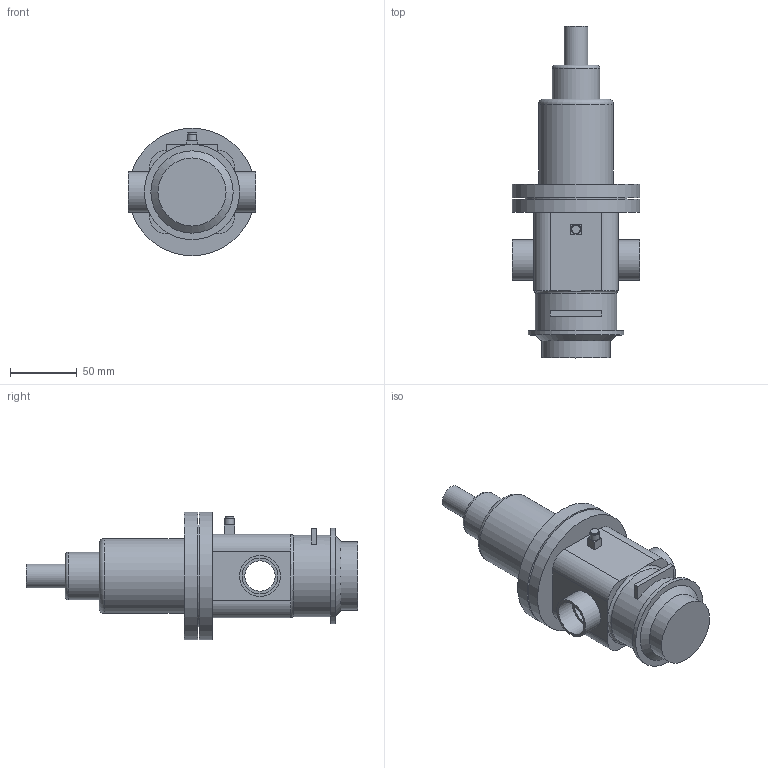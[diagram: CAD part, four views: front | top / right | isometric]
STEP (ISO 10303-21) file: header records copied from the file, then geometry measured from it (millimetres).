
FILE_DESCRIPTION(/* description */ (''),/* implementation_level */ '2;1');
FILE_NAME(/* name */ 'C:\Users\Vjadhav\Desktop\CAD for Inventor\Test for STEP\Autodesk_Inventor_FP_iParts\STEP\Victaulic_FP_Valve Pressure Relife_Series 867-3HC\Victaulic_FP_Valve Pressure Relife_Series 867-3HC_0.75 (20)_16.stp',/* time_stamp */ '2020-07-17T17:55:00+05:00',/* author */ ('VJadhav'),/* organization */ (''),/* preprocessor_version */ 'ST-DEVELOPER v17.2',/* originating_system */ 'Autodesk Inventor 2019',/* authorisation */ '');
FILE_SCHEMA (('AUTOMOTIVE_DESIGN { 1 0 10303 214 3 1 1 }'));
Length unit declared in the file: inch
Products named in the file (1): 867-3HC-16-0.75
Bounding box: 95.25 x 247.9 x 95.25 mm (x, y, z)
Volume: 676541.8 mm3; surface area: 75291.3 mm2
Topology: 1 solids, 1 shells, 58 faces, 145 edges, 105 vertices
Faces by surface type: plane 34, cylinder 20, torus 3, cone 1
Full cylindrical faces by diameter (mm): 6.35 x1, 6.985 x1, 17.78 x1, 22.606 x1, 26.67 x2, 30.48 x2, 35.56 x1, 50.8 x1, 55.88 x1, 60.96 x1, 71.12 x1, 76.2 x1, 95.25 x2
Entity records: 1892 total; most frequent: CARTESIAN_POINT 354, DIRECTION 339, ORIENTED_EDGE 290, EDGE_CURVE 145, AXIS2_PLACEMENT_3D 140, VERTEX_POINT 105, CIRCLE 81, EDGE_LOOP 76
